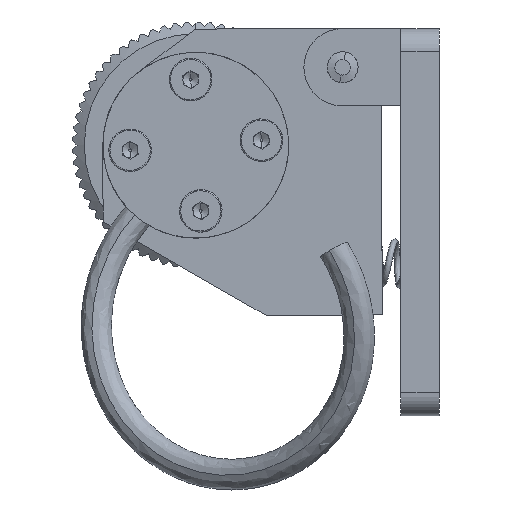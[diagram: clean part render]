
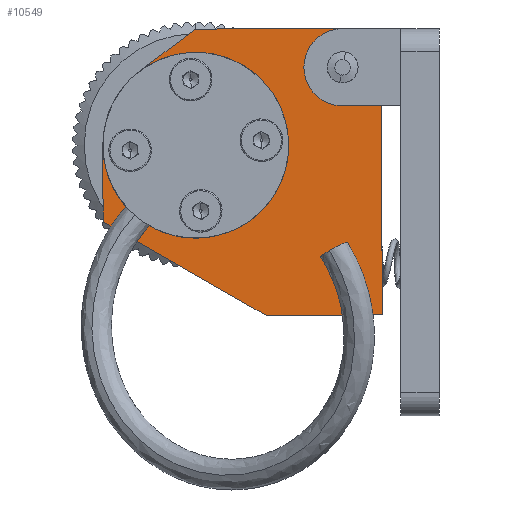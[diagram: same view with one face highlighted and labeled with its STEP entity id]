
A CAD part, left-side view. The second image highlights one B-rep face of the part: STEP entity #10549.
In plain terms, the highlighted planar face has unit normal (-1, 0, 0) as drawn and (0, 0, -1) by its records, which use the part's own axes.
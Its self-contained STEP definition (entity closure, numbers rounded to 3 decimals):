
#5263 = EDGE_CURVE ( 'NONE', #16307, #16147, #34687, .T. ) ;
#5267 = EDGE_CURVE ( 'NONE', #16269, #16264, #34700, .T. ) ;
#5271 = EDGE_CURVE ( 'NONE', #16207, #16205, #34712, .T. ) ;
#5755 = CARTESIAN_POINT ( 'NONE',  ( -15.63, -18., 0. ) ) ;
#5756 = DIRECTION ( 'NONE',  ( -0.899, 0.438, 0. ) ) ;
#5757 = CARTESIAN_POINT ( 'NONE',  ( 18.5, 18., 0. ) ) ;
#5761 = CARTESIAN_POINT ( 'NONE',  ( -18.5, -18., 0. ) ) ;
#5762 = DIRECTION ( 'NONE',  ( -1., 0., 0. ) ) ;
#5763 = DIRECTION ( 'NONE',  ( 0., -1., 0. ) ) ;
#5767 = CARTESIAN_POINT ( 'NONE',  ( 6.376, 18., 0. ) ) ;
#5768 = DIRECTION ( 'NONE',  ( 0.5, -0.866, 0. ) ) ;
#5773 = CARTESIAN_POINT ( 'NONE',  ( -18.5, 18., 0. ) ) ;
#5774 = DIRECTION ( 'NONE',  ( 1., 0., 0. ) ) ;
#5781 = CARTESIAN_POINT ( 'NONE',  ( -3.5, 6., 0. ) ) ;
#5782 = DIRECTION ( 'NONE',  ( 0., 0., -1. ) ) ;
#5783 = DIRECTION ( 'NONE',  ( 1., 0., 0. ) ) ;
#5786 = CARTESIAN_POINT ( 'NONE',  ( -18.5, 6., 0. ) ) ;
#5787 = DIRECTION ( 'NONE',  ( 0.6, 0.8, 0. ) ) ;
#5792 = CARTESIAN_POINT ( 'NONE',  ( -18.5, 18., 0. ) ) ;
#5793 = DIRECTION ( 'NONE',  ( 0., 1., 0. ) ) ;
#5798 = CARTESIAN_POINT ( 'NONE',  ( -13.5, -13., 0. ) ) ;
#5799 = DIRECTION ( 'NONE',  ( 0., 0., 1. ) ) ;
#5800 = DIRECTION ( 'NONE',  ( -1., 0., 0. ) ) ;
#6900 = FACE_OUTER_BOUND ( 'NONE', #13471, .T. ) ;
#6909 = FACE_BOUND ( 'NONE', #13467, .T. ) ;
#10090 = EDGE_CURVE ( 'NONE', #16310, #16252, #37875, .T. ) ;
#10092 = EDGE_CURVE ( 'NONE', #16228, #16310, #37878, .T. ) ;
#10093 = EDGE_CURVE ( 'NONE', #16144, #16228, #37877, .T. ) ;
#10095 = EDGE_CURVE ( 'NONE', #16255, #16144, #37879, .T. ) ;
#10097 = EDGE_CURVE ( 'NONE', #16269, #16255, #37887, .T. ) ;
#10099 = EDGE_CURVE ( 'NONE', #16264, #16207, #37883, .T. ) ;
#10101 = EDGE_CURVE ( 'NONE', #16145, #16205, #37890, .T. ) ;
#10103 = EDGE_CURVE ( 'NONE', #16252, #16145, #37896, .T. ) ;
#10105 = EDGE_CURVE ( 'NONE', #16147, #16307, #37899, .T. ) ;
#10549 = ADVANCED_FACE ( 'NONE', ( #6909, #6900 ), #10880, .F. ) ;
#10877 = CARTESIAN_POINT ( 'NONE',  ( -18.5, -18., 0. ) ) ;
#10880 = PLANE ( 'NONE',  #30716 ) ;
#10882 = DIRECTION ( 'NONE',  ( 0., 0., 1. ) ) ;
#10883 = DIRECTION ( 'NONE',  ( 1., 0., 0. ) ) ;
#13178 = CARTESIAN_POINT ( 'NONE',  ( 18.5, -3., 0. ) ) ;
#13179 = CARTESIAN_POINT ( 'NONE',  ( -18.5, 6., 0. ) ) ;
#13181 = CARTESIAN_POINT ( 'NONE',  ( -10.75, -13., 0. ) ) ;
#13239 = CARTESIAN_POINT ( 'NONE',  ( -13.1, 13.2, 0. ) ) ;
#13241 = CARTESIAN_POINT ( 'NONE',  ( -15.5, 6., 0. ) ) ;
#13262 = CARTESIAN_POINT ( 'NONE',  ( 18.5, -18., 0. ) ) ;
#13286 = CARTESIAN_POINT ( 'NONE',  ( -18.5, -16.6, 0. ) ) ;
#13289 = CARTESIAN_POINT ( 'NONE',  ( 6.376, 18., 0. ) ) ;
#13298 = CARTESIAN_POINT ( 'NONE',  ( 8.5, 6., 0. ) ) ;
#13303 = CARTESIAN_POINT ( 'NONE',  ( -3.5, 18., 0. ) ) ;
#13467 = EDGE_LOOP ( 'NONE', ( #21048, #21050 ) ) ;
#13471 = EDGE_LOOP ( 'NONE', ( #21052, #21055, #21057, #21059, #21060, #21061, #21063, #21066, #21067, #21068 ) ) ;
#16144 = VERTEX_POINT ( 'NONE', #13178 ) ;
#16145 = VERTEX_POINT ( 'NONE', #13179 ) ;
#16147 = VERTEX_POINT ( 'NONE', #13181 ) ;
#16205 = VERTEX_POINT ( 'NONE', #13239 ) ;
#16207 = VERTEX_POINT ( 'NONE', #13241 ) ;
#16228 = VERTEX_POINT ( 'NONE', #13262 ) ;
#16252 = VERTEX_POINT ( 'NONE', #13286 ) ;
#16255 = VERTEX_POINT ( 'NONE', #13289 ) ;
#16264 = VERTEX_POINT ( 'NONE', #13298 ) ;
#16269 = VERTEX_POINT ( 'NONE', #13303 ) ;
#16307 = VERTEX_POINT ( 'NONE', #38520 ) ;
#16310 = VERTEX_POINT ( 'NONE', #38523 ) ;
#21048 = ORIENTED_EDGE ( 'NONE', *, *, #5263, .T. ) ;
#21050 = ORIENTED_EDGE ( 'NONE', *, *, #10105, .T. ) ;
#21052 = ORIENTED_EDGE ( 'NONE', *, *, #10103, .T. ) ;
#21055 = ORIENTED_EDGE ( 'NONE', *, *, #10101, .T. ) ;
#21057 = ORIENTED_EDGE ( 'NONE', *, *, #5271, .F. ) ;
#21059 = ORIENTED_EDGE ( 'NONE', *, *, #10099, .F. ) ;
#21060 = ORIENTED_EDGE ( 'NONE', *, *, #5267, .F. ) ;
#21061 = ORIENTED_EDGE ( 'NONE', *, *, #10097, .T. ) ;
#21063 = ORIENTED_EDGE ( 'NONE', *, *, #10095, .T. ) ;
#21066 = ORIENTED_EDGE ( 'NONE', *, *, #10093, .T. ) ;
#21067 = ORIENTED_EDGE ( 'NONE', *, *, #10092, .T. ) ;
#21068 = ORIENTED_EDGE ( 'NONE', *, *, #10090, .T. ) ;
#29853 = CARTESIAN_POINT ( 'NONE',  ( -13.5, -13., 0. ) ) ;
#29854 = DIRECTION ( 'NONE',  ( 0., 0., 1. ) ) ;
#29855 = DIRECTION ( 'NONE',  ( -1., 0., 0. ) ) ;
#30256 = CARTESIAN_POINT ( 'NONE',  ( -3.5, 6., 0. ) ) ;
#30257 = DIRECTION ( 'NONE',  ( 0., 0., -1. ) ) ;
#30258 = DIRECTION ( 'NONE',  ( 1., 0., 0. ) ) ;
#30267 = CARTESIAN_POINT ( 'NONE',  ( -3.5, 6., 0. ) ) ;
#30268 = DIRECTION ( 'NONE',  ( 0., 0., -1. ) ) ;
#30269 = DIRECTION ( 'NONE',  ( 1., 0., 0. ) ) ;
#30716 = AXIS2_PLACEMENT_3D ( 'NONE', #10877, #10882, #10883 ) ;
#34687 = CIRCLE ( 'NONE', #42106, 2.75 ) ;
#34700 = CIRCLE ( 'NONE', #42108, 12. ) ;
#34712 = CIRCLE ( 'NONE', #42111, 12. ) ;
#37869 = VECTOR ( 'NONE', #5756, 1000. ) ;
#37874 = VECTOR ( 'NONE', #5762, 1000. ) ;
#37875 = LINE ( 'NONE', #5755, #37869 ) ;
#37876 = VECTOR ( 'NONE', #5768, 1000. ) ;
#37877 = LINE ( 'NONE', #5757, #37880 ) ;
#37878 = LINE ( 'NONE', #5761, #37874 ) ;
#37879 = LINE ( 'NONE', #5767, #37876 ) ;
#37880 = VECTOR ( 'NONE', #5763, 1000. ) ;
#37883 = CIRCLE ( 'NONE', #43797, 12. ) ;
#37885 = VECTOR ( 'NONE', #5774, 1000. ) ;
#37887 = LINE ( 'NONE', #5773, #37885 ) ;
#37890 = LINE ( 'NONE', #5786, #37891 ) ;
#37891 = VECTOR ( 'NONE', #5787, 1000. ) ;
#37894 = VECTOR ( 'NONE', #5793, 1000. ) ;
#37896 = LINE ( 'NONE', #5792, #37894 ) ;
#37899 = CIRCLE ( 'NONE', #43807, 2.75 ) ;
#38520 = CARTESIAN_POINT ( 'NONE',  ( -16.25, -13., 0. ) ) ;
#38523 = CARTESIAN_POINT ( 'NONE',  ( -15.63, -18., 0. ) ) ;
#42106 = AXIS2_PLACEMENT_3D ( 'NONE', #29853, #29854, #29855 ) ;
#42108 = AXIS2_PLACEMENT_3D ( 'NONE', #30256, #30257, #30258 ) ;
#42111 = AXIS2_PLACEMENT_3D ( 'NONE', #30267, #30268, #30269 ) ;
#43797 = AXIS2_PLACEMENT_3D ( 'NONE', #5781, #5782, #5783 ) ;
#43807 = AXIS2_PLACEMENT_3D ( 'NONE', #5798, #5799, #5800 ) ;
